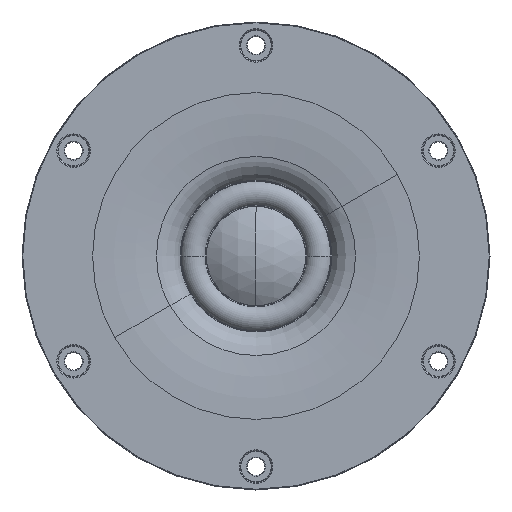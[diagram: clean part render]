
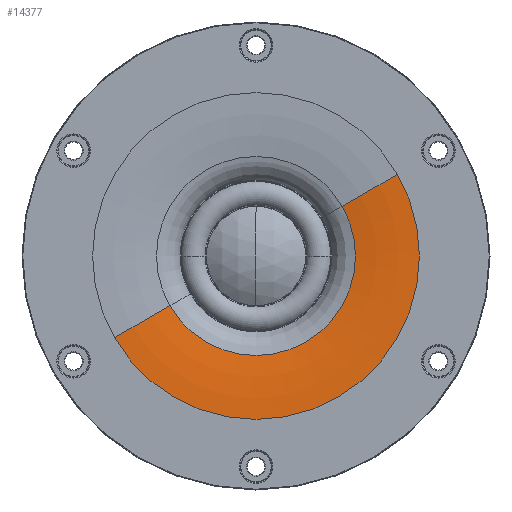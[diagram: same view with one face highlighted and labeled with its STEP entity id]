
A CAD part, front view. The second image highlights one B-rep face of the part: STEP entity #14377.
In plain terms, the highlighted toroidal (fillet/blend) face has major radius 41.892 mm and minor radius 100 mm.
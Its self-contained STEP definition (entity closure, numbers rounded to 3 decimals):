
#761 = CARTESIAN_POINT ( 'NONE',  ( 36.28, -22.021, 20.946 ) ) ;
#907 = DIRECTION ( 'NONE',  ( 0.5, 0., -0.866 ) ) ;
#1340 = CIRCLE ( 'NONE', #16510, 100. ) ;
#1865 = FACE_OUTER_BOUND ( 'NONE', #7723, .T. ) ;
#2614 = CARTESIAN_POINT ( 'NONE',  ( 36.28, 77.979, 20.946 ) ) ;
#3081 = VERTEX_POINT ( 'NONE', #761 ) ;
#3635 = CIRCLE ( 'NONE', #15214, 25.501 ) ;
#4045 = ORIENTED_EDGE ( 'NONE', *, *, #9783, .T. ) ;
#4369 = DIRECTION ( 'NONE',  ( 0., 1., 0. ) ) ;
#5580 = VERTEX_POINT ( 'NONE', #11373 ) ;
#6785 = CARTESIAN_POINT ( 'NONE',  ( 22.085, -20.668, 12.751 ) ) ;
#6917 = TOROIDAL_SURFACE ( 'NONE', #16067, 41.893, 100. ) ;
#7005 = DIRECTION ( 'NONE',  ( 0.866, 0., 0.5 ) ) ;
#7397 = CARTESIAN_POINT ( 'NONE',  ( -36.28, -22.021, -20.946 ) ) ;
#7723 = EDGE_LOOP ( 'NONE', ( #8971, #4045, #15891, #14906 ) ) ;
#7929 = CIRCLE ( 'NONE', #14337, 41.893 ) ;
#8126 = DIRECTION ( 'NONE',  ( -0.866, 0., -0.5 ) ) ;
#8414 = DIRECTION ( 'NONE',  ( 0.866, 0., 0.5 ) ) ;
#8938 = CARTESIAN_POINT ( 'NONE',  ( 0., -20.668, 0. ) ) ;
#8971 = ORIENTED_EDGE ( 'NONE', *, *, #13429, .T. ) ;
#9783 = EDGE_CURVE ( 'NONE', #5580, #18455, #1340, .T. ) ;
#9910 = EDGE_CURVE ( 'NONE', #14588, #3081, #15616, .T. ) ;
#10261 = DIRECTION ( 'NONE',  ( 0.866, 0., 0.5 ) ) ;
#10737 = AXIS2_PLACEMENT_3D ( 'NONE', #2614, #12520, #8414 ) ;
#11285 = DIRECTION ( 'NONE',  ( 0., 1., 0. ) ) ;
#11373 = CARTESIAN_POINT ( 'NONE',  ( -22.085, -20.668, -12.751 ) ) ;
#11791 = DIRECTION ( 'NONE',  ( 0., 1., 0. ) ) ;
#11831 = EDGE_CURVE ( 'NONE', #3081, #18455, #7929, .T. ) ;
#12520 = DIRECTION ( 'NONE',  ( -0.5, 0., 0.866 ) ) ;
#13036 = CARTESIAN_POINT ( 'NONE',  ( 0., 77.979, 0. ) ) ;
#13429 = EDGE_CURVE ( 'NONE', #14588, #5580, #3635, .T. ) ;
#13879 = CARTESIAN_POINT ( 'NONE',  ( 0., -22.021, 0. ) ) ;
#14337 = AXIS2_PLACEMENT_3D ( 'NONE', #13879, #11285, #7005 ) ;
#14377 = ADVANCED_FACE ( 'NONE', ( #1865 ), #6917, .T. ) ;
#14588 = VERTEX_POINT ( 'NONE', #6785 ) ;
#14906 = ORIENTED_EDGE ( 'NONE', *, *, #9910, .F. ) ;
#15214 = AXIS2_PLACEMENT_3D ( 'NONE', #8938, #11791, #16185 ) ;
#15571 = CARTESIAN_POINT ( 'NONE',  ( -36.28, 77.979, -20.946 ) ) ;
#15616 = CIRCLE ( 'NONE', #10737, 100. ) ;
#15891 = ORIENTED_EDGE ( 'NONE', *, *, #11831, .F. ) ;
#16067 = AXIS2_PLACEMENT_3D ( 'NONE', #13036, #4369, #10261 ) ;
#16185 = DIRECTION ( 'NONE',  ( 0.866, 0., 0.5 ) ) ;
#16510 = AXIS2_PLACEMENT_3D ( 'NONE', #15571, #907, #8126 ) ;
#18455 = VERTEX_POINT ( 'NONE', #7397 ) ;
